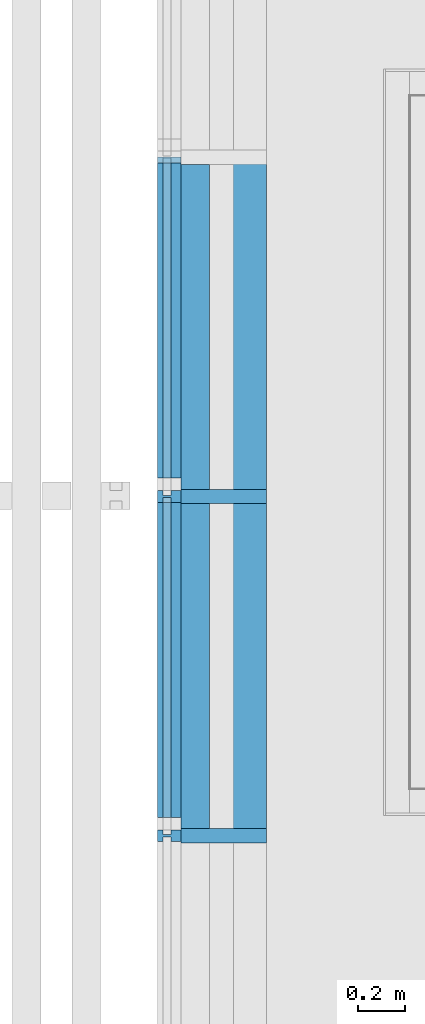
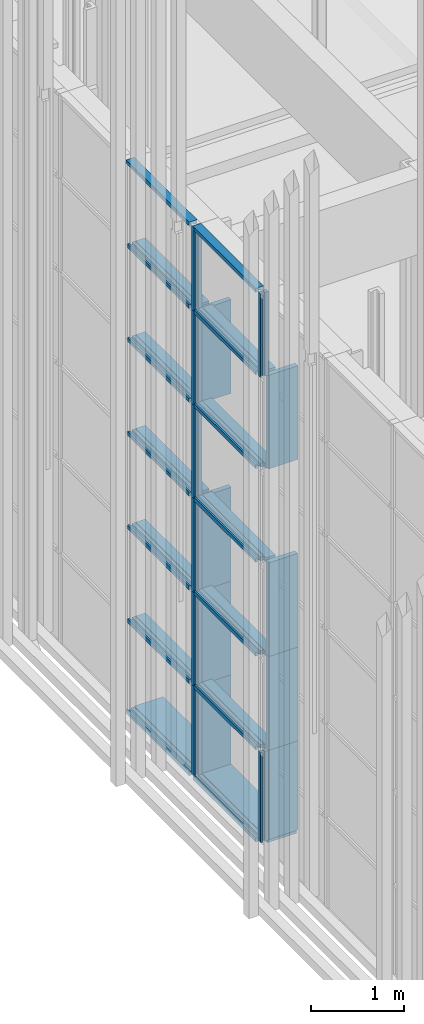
# One storey, part 11 of 260: 42 members, 2 elements without a shape of their own.
"""IFC2X3 building model written with IfcOpenShell, lengths in millimetres."""

from ifc_helpers import new_model, entity, si_unit, converted_unit, derived_unit, money_unit, direction, frame, origin_with_axes, place, context, subcontext, project, spatial, faceted_brep, source, transform, mapped, material, type_object, element, aggregate, save


model = new_model("IFC2X3")

# Units and contexts
model_context = context("Model", 3, precision=0.01, world=origin_with_axes(), true_north=direction((0.0, 1.0)))
body_context = subcontext(model_context, "Body", "Model", "MODEL_VIEW")
ifc_project = project(units=[si_unit("LENGTHUNIT", "METRE", prefix="MILLI"), si_unit("AREAUNIT", "SQUARE_METRE"), si_unit("VOLUMEUNIT", "CUBIC_METRE"), converted_unit("PLANEANGLEUNIT", "DEGREE", entity("IfcPlaneAngleMeasure", 0.0174532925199), si_unit("PLANEANGLEUNIT", "RADIAN"), dimensions=[0, 0, 0, 0, 0, 0, 0]), money_unit("EUR"), converted_unit("TIMEUNIT", "Year", entity("IfcTimeMeasure", 31556926.0), si_unit("TIMEUNIT", "SECOND"), dimensions=[0, 0, 1, 0, 0, 0, 0]), si_unit("MASSUNIT", "GRAM", prefix="KILO"), si_unit("THERMODYNAMICTEMPERATUREUNIT", "DEGREE_CELSIUS"), si_unit("LUMINOUSINTENSITYUNIT", "LUMEN"), si_unit("ENERGYUNIT", "JOULE", prefix="MEGA"), derived_unit("THERMALCONDUCTANCEUNIT", [(si_unit("POWERUNIT", "WATT"), 1), (si_unit("LENGTHUNIT", "METRE"), -1), (si_unit("THERMODYNAMICTEMPERATUREUNIT", "KELVIN"), -1)]), derived_unit("SPECIFICHEATCAPACITYUNIT", [(si_unit("ENERGYUNIT", "JOULE"), 1), (si_unit("MASSUNIT", "GRAM", prefix="KILO"), -1), (si_unit("THERMODYNAMICTEMPERATUREUNIT", "KELVIN"), -1)]), derived_unit("MASSDENSITYUNIT", [(si_unit("MASSUNIT", "GRAM", prefix="KILO"), 1), (si_unit("VOLUMEUNIT", "CUBIC_METRE"), -1)])], contexts=[model_context])

# Site, building, storey
site_placement = place(None, origin_with_axes())
site = spatial("IfcSite", under=ifc_project, at=site_placement, Name="Kolde pst 67a", CompositionType="ELEMENT")
building_placement = place(site_placement, origin_with_axes())
building = spatial("IfcBuilding", under=site, at=building_placement, Name="Riigigümnaasium", CompositionType="ELEMENT")
storey_placement = place(building_placement, origin_with_axes())
storey = spatial("IfcBuildingStorey", under=building, at=storey_placement, Name="1. korrus", CompositionType="ELEMENT", Elevation=0.0)

# Curtain wall, members
curtain_wall_type = type_object("IfcCurtainWallType", Name="Curtain Wall Type", PredefinedType="NOTDEFINED")
curtain_wall_1_placement = place(storey_placement, frame((47829.9854655, 8727.77020058, -0.000749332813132), z_axis=(0.0, 0.0, 1.0), x_axis=(1.0, 0.0, 0.0)))
curtain_wall_1 = element("IfcCurtainWall", 1, at=curtain_wall_1_placement, inside=storey, type_object=curtain_wall_type, Name="KLAASFASSAAD")
ifc_material_1 = material(Name="_METALL - alumiinium")
member_type_1 = type_object("IfcMemberType", Name="Mullion Frame 50 x 100", PredefinedType="MEMBER")
shared_shape_1 = source(origin_with_axes(), body_context, "Body", "Brep", [
    faceted_brep([(5.0, -16.5, 1230.00046362), (5.0, 16.5, 1230.00046362), (25.0, 16.5, 1230.00046362), (25.0, 40.0, 1230.00046362), (-25.0, 40.0, 1230.00046362), (-25.0, 16.5, 1230.00046362), (-5.0, 16.5, 1230.00046362), (-5.0, -16.5, 1230.00046362), (-25.0, -16.5, 1230.00046362), (-25.0, -60.0, 1230.00046362), (25.0, -60.0, 1230.00046362), (25.0, -16.5, 1230.00046362), (5.0, -16.5, 50.0), (5.0, 16.5, 50.0), (25.0, 16.5, 50.0), (25.0, 40.0, 50.0), (-25.0, 40.0, 50.0), (-25.0, 16.5, 50.0), (-5.0, 16.5, 50.0), (-5.0, -16.5, 50.0), (-25.0, -16.5, 50.0), (-25.0, -60.0, 50.0), (25.0, -60.0, 50.0), (25.0, -16.5, 50.0)], [[[0, 1, 2, 3, 4, 5, 6, 7, 8, 9, 10, 11]], [[0, 12, 13, 1]], [[1, 13, 14, 2]], [[14, 15, 3, 2]], [[4, 3, 15, 16]], [[17, 5, 4, 16]], [[5, 17, 18, 6]], [[7, 6, 18, 19]], [[8, 7, 19, 20]], [[8, 20, 21, 9]], [[10, 9, 21, 22]], [[11, 10, 22, 23]], [[11, 23, 12, 0]], [[13, 12, 23, 22, 21, 20, 19, 18, 17, 16, 15, 14]]]),
])
member_1_placement = place(curtain_wall_1_placement, frame((-4.75753836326e-06, 5218.79108249, 0.0), z_axis=(0.0, 5.5564899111e-09, 1.0), x_axis=(9.11613907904e-10, -1.0, 5.5564899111e-09)))
member_1 = element("IfcMember", 2, at=member_1_placement, type_object=member_type_1, material=ifc_material_1, Name="RF RAAM VERT-974", ObjectType="MEMBER", context=body_context, shape_type="MappedRepresentation", body=[
    mapped(shared_shape_1, transform((0.0, 0.0, 0.0), x_axis=(-1.0, 0.0, 5.5564899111e-09), y_axis=(0.0, -1.0, 0.0), z_axis=(5.5564899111e-09, 0.0, 1.0))),
])
member_2_placement = place(curtain_wall_1_placement, frame((-3.45392692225e-06, 3788.79107025, 0.0), z_axis=(0.0, -1.81860125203e-09, 1.0), x_axis=(9.11613907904e-10, -1.0, -1.81860125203e-09)))
member_2 = element("IfcMember", 3, at=member_2_placement, type_object=member_type_1, material=ifc_material_1, Name="RF RAAM VERT-979", ObjectType="MEMBER", context=body_context, shape_type="MappedRepresentation", body=[
    mapped(shared_shape_1, transform((0.0, 0.0, 0.0), x_axis=(-1.0, 0.0, -1.81860125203e-09), y_axis=(0.0, -1.0, 0.0), z_axis=(-1.81860125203e-09, 0.0, 1.0))),
])
shared_shape_2 = source(origin_with_axes(), body_context, "Body", "Brep", [
    faceted_brep([(5.0, -16.5, 1230.0), (5.0, 16.5, 1230.0), (25.0, 16.5, 1230.0), (25.0, 40.0, 1230.0), (-25.0, 40.0, 1230.0), (-25.0, 16.5, 1230.0), (-5.0, 16.5, 1230.0), (-5.0, -16.5, 1230.0), (-25.0, -16.5, 1230.0), (-25.0, -60.0, 1230.0), (25.0, -60.0, 1230.0), (25.0, -16.5, 1230.0), (5.0, -16.5, 0.0), (5.0, 16.5, 0.0), (25.0, 16.5, 0.0), (25.0, 40.0, 0.0), (-25.0, 40.0, 0.0), (-25.0, 16.5, 0.0), (-5.0, 16.5, 0.0), (-5.0, -16.5, 0.0), (-25.0, -16.5, 0.0), (-25.0, -60.0, 0.0), (25.0, -60.0, 0.0), (25.0, -16.5, 0.0)], [[[0, 1, 2, 3, 4, 5, 6, 7, 8, 9, 10, 11]], [[0, 12, 13, 1]], [[1, 13, 14, 2]], [[14, 15, 3, 2]], [[3, 15, 16, 4]], [[17, 5, 4, 16]], [[5, 17, 18, 6]], [[7, 6, 18, 19]], [[8, 7, 19, 20]], [[8, 20, 21, 9]], [[9, 21, 22, 10]], [[11, 10, 22, 23]], [[11, 23, 12, 0]], [[13, 12, 23, 22, 21, 20, 19, 18, 17, 16, 15, 14]]]),
])
member_3_placement = place(curtain_wall_1_placement, frame((-4.75753836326e-06, 5218.79108932, 4920.00074933), z_axis=(0.0, -1.73241294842e-08, 1.0), x_axis=(9.11613907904e-10, -1.0, -1.73241294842e-08)))
member_3 = element("IfcMember", 4, at=member_3_placement, type_object=member_type_1, material=ifc_material_1, Name="RF RAAM VERT-871", ObjectType="MEMBER", context=body_context, shape_type="MappedRepresentation", body=[
    mapped(shared_shape_2, transform((0.0, 0.0, 0.0), x_axis=(-1.0, 0.0, -1.73241294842e-08), y_axis=(0.0, -1.0, 0.0), z_axis=(-1.73241294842e-08, 0.0, 1.0))),
])
member_4_placement = place(curtain_wall_1_placement, frame((-4.75753836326e-06, 5218.79108932, 1230.00074933), z_axis=(0.0, 0.0, 1.0), x_axis=(9.11613907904e-10, -1.0, 0.0)))
member_4 = element("IfcMember", 5, at=member_4_placement, type_object=member_type_1, material=ifc_material_1, Name="RF RAAM VERT-970", ObjectType="MEMBER", context=body_context, shape_type="MappedRepresentation", body=[
    mapped(shared_shape_2, transform((0.0, 0.0, 0.0), x_axis=(-1.0, 0.0, 0.0), y_axis=(0.0, -1.0, 0.0), z_axis=(0.0, 0.0, 1.0))),
])
member_5_placement = place(curtain_wall_1_placement, frame((-4.75753836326e-06, 5218.79108932, 2460.00074933), z_axis=(0.0, 0.0, 1.0), x_axis=(9.11613907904e-10, -1.0, 0.0)))
member_5 = element("IfcMember", 6, at=member_5_placement, type_object=member_type_1, material=ifc_material_1, Name="RF RAAM VERT-971", ObjectType="MEMBER", context=body_context, shape_type="MappedRepresentation", body=[
    mapped(shared_shape_2, transform((0.0, 0.0, 0.0), x_axis=(-1.0, 0.0, 0.0), y_axis=(0.0, -1.0, 0.0), z_axis=(0.0, 0.0, 1.0))),
])
member_6_placement = place(curtain_wall_1_placement, frame((-4.75753836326e-06, 5218.79108932, 3690.00074933), z_axis=(0.0, 0.0, 1.0), x_axis=(9.11613907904e-10, -1.0, 0.0)))
member_6 = element("IfcMember", 7, at=member_6_placement, type_object=member_type_1, material=ifc_material_1, Name="RF RAAM VERT-972", ObjectType="MEMBER", context=body_context, shape_type="MappedRepresentation", body=[
    mapped(shared_shape_2, transform((0.0, 0.0, 0.0), x_axis=(-1.0, 0.0, 0.0), y_axis=(0.0, -1.0, 0.0), z_axis=(0.0, 0.0, 1.0))),
])
member_type_2 = type_object("IfcMemberType", Name="Transom Frame 50 x 100", PredefinedType="MEMBER")
shared_shape_3 = source(origin_with_axes(), body_context, "Body", "Brep", [
    faceted_brep([(5.0, -16.5, 1327.75198335), (5.0, 16.5, 1327.75198335), (25.0, 16.5, 1327.75198335), (25.0, 40.0, 1327.75198335), (-25.0, 40.0, 1327.75198335), (-25.0, 16.5, 1327.75198335), (-5.0, 16.5, 1327.75198335), (-5.0, -16.5, 1327.75198335), (-25.0, -16.5, 1327.75198335), (-25.0, -60.0, 1327.75198335), (25.0, -60.0, 1327.75198335), (25.0, -16.5, 1327.75198335), (5.0, -16.5, 0.0), (5.0, 16.5, 0.0), (25.0, 16.5, 0.0), (25.0, 40.0, 0.0), (-25.0, 40.0, 0.0), (-25.0, 16.5, 0.0), (-5.0, 16.5, 0.0), (-5.0, -16.5, 0.0), (-25.0, -16.5, 0.0), (-25.0, -60.0, 0.0), (25.0, -60.0, 0.0), (25.0, -16.5, 0.0)], [[[0, 1, 2, 3, 4, 5, 6, 7, 8, 9, 10, 11]], [[0, 12, 13, 1]], [[1, 13, 14, 2]], [[14, 15, 3, 2]], [[3, 15, 16, 4]], [[17, 5, 4, 16]], [[5, 17, 18, 6]], [[7, 6, 18, 19]], [[8, 7, 19, 20]], [[8, 20, 21, 9]], [[9, 21, 22, 10]], [[11, 10, 22, 23]], [[11, 23, 12, 0]], [[13, 12, 23, 22, 21, 20, 19, 18, 17, 16, 15, 14]]]),
])
member_7_placement = place(curtain_wall_1_placement, frame((-3.52434881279e-06, 3866.03908467, 4920.00074933), z_axis=(-9.11615393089e-10, 1.0, 0.0), x_axis=(0.0, 0.0, 1.0)))
member_7 = element("IfcMember", 8, at=member_7_placement, type_object=member_type_2, material=ifc_material_1, Name="RF RAAM HOR-829", ObjectType="MEMBER", context=body_context, shape_type="MappedRepresentation", body=[
    mapped(shared_shape_3, transform((0.0, 0.0, 0.0), x_axis=(-1.0, 0.0, 0.0), y_axis=(0.0, -1.0, 9.11615270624e-10), z_axis=(0.0, 9.11615270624e-10, 1.0))),
])
member_8_placement = place(curtain_wall_1_placement, frame((-3.52434881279e-06, 3866.03908467, 6150.00074933), z_axis=(-9.11615407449e-10, 1.0, 0.0), x_axis=(0.0, 0.0, 1.0)))
member_8 = element("IfcMember", 9, at=member_8_placement, type_object=member_type_2, material=ifc_material_1, Name="RF RAAM HOR-830", ObjectType="MEMBER", context=body_context, shape_type="MappedRepresentation", body=[
    mapped(shared_shape_3, transform((0.0, 0.0, 0.0), x_axis=(-1.0, 0.0, 0.0), y_axis=(0.0, -1.0, 9.11615284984e-10), z_axis=(0.0, 9.11615284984e-10, 1.0))),
])
member_9_placement = place(curtain_wall_1_placement, frame((-4.82796025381e-06, 5296.03908467, 4920.00074933), z_axis=(-9.11615393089e-10, 1.0, 0.0), x_axis=(0.0, 0.0, 1.0)))
member_9 = element("IfcMember", 10, at=member_9_placement, type_object=member_type_2, material=ifc_material_1, Name="RF RAAM HOR-831", ObjectType="MEMBER", context=body_context, shape_type="MappedRepresentation", body=[
    mapped(shared_shape_3, transform((0.0, 0.0, 0.0), x_axis=(-1.0, 0.0, 0.0), y_axis=(0.0, -1.0, 9.11615270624e-10), z_axis=(0.0, 9.11615270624e-10, 1.0))),
])
member_10_placement = place(curtain_wall_1_placement, frame((-4.82796025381e-06, 5296.03908467, 6150.00074933), z_axis=(-9.11615407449e-10, 1.0, 0.0), x_axis=(0.0, 0.0, 1.0)))
member_10 = element("IfcMember", 11, at=member_10_placement, type_object=member_type_2, material=ifc_material_1, Name="RF RAAM HOR-832", ObjectType="MEMBER", context=body_context, shape_type="MappedRepresentation", body=[
    mapped(shared_shape_3, transform((0.0, 0.0, 0.0), x_axis=(-1.0, 0.0, 0.0), y_axis=(0.0, -1.0, 9.11615284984e-10), z_axis=(0.0, 9.11615284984e-10, 1.0))),
])
member_11_placement = place(curtain_wall_1_placement, frame((-4.82796025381e-06, 5296.03908467, 1230.00074933), z_axis=(-9.11615393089e-10, 1.0, 0.0), x_axis=(0.0, 0.0, 1.0)))
member_11 = element("IfcMember", 12, at=member_11_placement, type_object=member_type_2, material=ifc_material_1, Name="RF RAAM HOR-928", ObjectType="MEMBER", context=body_context, shape_type="MappedRepresentation", body=[
    mapped(shared_shape_3, transform((0.0, 0.0, 0.0), x_axis=(-1.0, 0.0, 0.0), y_axis=(0.0, -1.0, 9.11615270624e-10), z_axis=(0.0, 9.11615270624e-10, 1.0))),
])
member_12_placement = place(curtain_wall_1_placement, frame((-4.82796025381e-06, 5296.03908467, 2460.00074933), z_axis=(-9.11615393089e-10, 1.0, 0.0), x_axis=(0.0, 0.0, 1.0)))
member_12 = element("IfcMember", 13, at=member_12_placement, type_object=member_type_2, material=ifc_material_1, Name="RF RAAM HOR-929", ObjectType="MEMBER", context=body_context, shape_type="MappedRepresentation", body=[
    mapped(shared_shape_3, transform((0.0, 0.0, 0.0), x_axis=(-1.0, 0.0, 0.0), y_axis=(0.0, -1.0, 9.11615270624e-10), z_axis=(0.0, 9.11615270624e-10, 1.0))),
])
member_13_placement = place(curtain_wall_1_placement, frame((-4.82796025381e-06, 5296.03908467, 3690.00074933), z_axis=(-9.11615393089e-10, 1.0, 0.0), x_axis=(0.0, 0.0, 1.0)))
member_13 = element("IfcMember", 14, at=member_13_placement, type_object=member_type_2, material=ifc_material_1, Name="RF RAAM HOR-930", ObjectType="MEMBER", context=body_context, shape_type="MappedRepresentation", body=[
    mapped(shared_shape_3, transform((0.0, 0.0, 0.0), x_axis=(-1.0, 0.0, 0.0), y_axis=(0.0, -1.0, 9.11615270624e-10), z_axis=(0.0, 9.11615270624e-10, 1.0))),
])
member_14_placement = place(curtain_wall_1_placement, frame((-3.52434881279e-06, 3866.03908467, 1230.00074933), z_axis=(-9.11615393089e-10, 1.0, 0.0), x_axis=(0.0, 0.0, 1.0)))
member_14 = element("IfcMember", 15, at=member_14_placement, type_object=member_type_2, material=ifc_material_1, Name="RF RAAM HOR-931", ObjectType="MEMBER", context=body_context, shape_type="MappedRepresentation", body=[
    mapped(shared_shape_3, transform((0.0, 0.0, 0.0), x_axis=(-1.0, 0.0, 0.0), y_axis=(0.0, -1.0, 9.11615270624e-10), z_axis=(0.0, 9.11615270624e-10, 1.0))),
])
member_15_placement = place(curtain_wall_1_placement, frame((-3.52434881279e-06, 3866.03908467, 2460.00074933), z_axis=(-9.11615393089e-10, 1.0, 0.0), x_axis=(0.0, 0.0, 1.0)))
member_15 = element("IfcMember", 16, at=member_15_placement, type_object=member_type_2, material=ifc_material_1, Name="RF RAAM HOR-932", ObjectType="MEMBER", context=body_context, shape_type="MappedRepresentation", body=[
    mapped(shared_shape_3, transform((0.0, 0.0, 0.0), x_axis=(-1.0, 0.0, 0.0), y_axis=(0.0, -1.0, 9.11615270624e-10), z_axis=(0.0, 9.11615270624e-10, 1.0))),
])
member_16_placement = place(curtain_wall_1_placement, frame((-3.52434881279e-06, 3866.03908467, 3690.00074933), z_axis=(-9.11615393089e-10, 1.0, 0.0), x_axis=(0.0, 0.0, 1.0)))
member_16 = element("IfcMember", 17, at=member_16_placement, type_object=member_type_2, material=ifc_material_1, Name="RF RAAM HOR-933", ObjectType="MEMBER", context=body_context, shape_type="MappedRepresentation", body=[
    mapped(shared_shape_3, transform((0.0, 0.0, 0.0), x_axis=(-1.0, 0.0, 0.0), y_axis=(0.0, -1.0, 9.11615270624e-10), z_axis=(0.0, 9.11615270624e-10, 1.0))),
])
member_type_3 = type_object("IfcMemberType", Name="Boundary Frame 50 x 100", PredefinedType="MEMBER")
shared_shape_4 = source(origin_with_axes(), body_context, "Body", "Brep", [
    faceted_brep([(-30.0, -16.5, 1352.75197298), (-50.0, -16.5, 1352.75197298), (-50.0, -60.0, 1352.75197298), (0.0, -60.0, 1352.75197298), (0.0, 40.0, 1352.75197298), (-50.0, 40.0, 1352.75197298), (-50.0, 16.5, 1352.75197298), (-30.0, 16.5, 1352.75197298), (-30.0, -16.5, 0.0), (-50.0, -16.5, 0.0), (-50.0, -60.0, 0.0), (0.0, -60.0, 0.0), (0.0, 40.0, 0.0), (-50.0, 40.0, 0.0), (-50.0, 16.5, 0.0), (-30.0, 16.5, 0.0)], [[[0, 1, 2, 3, 4, 5, 6, 7]], [[0, 8, 9, 1]], [[9, 10, 2, 1]], [[10, 11, 3, 2]], [[11, 12, 4, 3]], [[12, 13, 5, 4]], [[6, 5, 13, 14]], [[14, 15, 7, 6]], [[7, 15, 8, 0]], [[8, 15, 14, 13, 12, 11, 10, 9]]]),
])
member_17_placement = place(curtain_wall_1_placement, frame((-4.82796025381e-06, 5296.03908467, 0.0), z_axis=(-9.11615399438e-10, 1.0, 0.0), x_axis=(0.0, 0.0, 1.0)))
member_17 = element("IfcMember", 18, at=member_17_placement, type_object=member_type_3, material=ifc_material_1, Name="RF RAAM SERV-558", ObjectType="MEMBER", context=body_context, shape_type="MappedRepresentation", body=[
    mapped(shared_shape_4, transform((0.0, 0.0, 0.0), x_axis=(-1.0, 0.0, 0.0), y_axis=(0.0, -1.0, 9.11615276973e-10), z_axis=(0.0, 9.11615276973e-10, 1.0))),
])
member_18_placement = place(curtain_wall_1_placement, frame((-3.52434881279e-06, 3866.03908467, 0.0), z_axis=(-9.11615397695e-10, 1.0, 0.0), x_axis=(0.0, 0.0, 1.0)))
member_18 = element("IfcMember", 19, at=member_18_placement, type_object=member_type_3, material=ifc_material_1, Name="RF RAAM SERV-557", ObjectType="MEMBER", context=body_context, shape_type="MappedRepresentation", body=[
    mapped(shared_shape_4, transform((0.0, 0.0, 0.0), x_axis=(-1.0, 0.0, 0.0), y_axis=(0.0, -1.0, 9.1161527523e-10), z_axis=(0.0, 9.1161527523e-10, 1.0))),
])
member_19_placement = place(curtain_wall_1_placement, frame((-4.75753836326e-06, 5218.79108236, 7259.99994321), z_axis=(9.11615397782e-10, -1.0, 0.0), x_axis=(0.0, 0.0, -1.0)))
member_19 = element("IfcMember", 20, at=member_19_placement, type_object=member_type_3, material=ifc_material_1, Name="RF RAAM SERV-578", ObjectType="MEMBER", context=body_context, shape_type="MappedRepresentation", body=[
    mapped(shared_shape_4, transform((0.0, 0.0, 0.0), x_axis=(-1.0, 0.0, 0.0), y_axis=(0.0, -1.0, -9.11615397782e-10), z_axis=(0.0, -9.11615397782e-10, 1.0))),
])
member_20_placement = place(curtain_wall_1_placement, frame((-6.06114980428e-06, 6648.7910798, 7259.99994321), z_axis=(9.11615399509e-10, -1.0, 0.0), x_axis=(0.0, 0.0, -1.0)))
member_20 = element("IfcMember", 21, at=member_20_placement, type_object=member_type_3, material=ifc_material_1, Name="RF RAAM SERV-577", ObjectType="MEMBER", context=body_context, shape_type="MappedRepresentation", body=[
    mapped(shared_shape_4, transform((0.0, 0.0, 0.0), x_axis=(-1.0, 0.0, 0.0), y_axis=(0.0, -1.0, -9.11615399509e-10), z_axis=(0.0, -9.11615399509e-10, 1.0))),
])
shared_shape_5 = source(origin_with_axes(), body_context, "Body", "Brep", [
    faceted_brep([(5.0, -16.5, 1099.99900713), (5.0, 16.5, 1099.99900713), (25.0, 16.5, 1099.99900713), (25.0, 40.0, 1099.99900713), (-25.0, 40.0, 1099.99900713), (-25.0, 16.5, 1099.99900713), (-5.0, 16.5, 1099.99900713), (-5.0, -16.5, 1099.99900713), (-25.0, -16.5, 1099.99900713), (-25.0, -60.0, 1099.99900713), (25.0, -60.0, 1099.99900713), (25.0, -16.5, 1099.99900713), (5.0, -16.5, -4.55870452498e-07), (5.0, 16.5, -4.55870452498e-07), (25.0, 16.5, -4.55870452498e-07), (25.0, 40.0, -4.55870452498e-07), (-25.0, 40.0, -4.55870452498e-07), (-25.0, 16.5, -4.55870452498e-07), (-5.0, 16.5, -4.55870452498e-07), (-5.0, -16.5, -4.55870452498e-07), (-25.0, -16.5, -4.55870452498e-07), (-25.0, -60.0, -4.55870452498e-07), (25.0, -60.0, -4.55870452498e-07), (25.0, -16.5, -4.55870452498e-07)], [[[0, 1, 2, 3, 4, 5, 6, 7, 8, 9, 10, 11]], [[0, 12, 13, 1]], [[1, 13, 14, 2]], [[14, 15, 3, 2]], [[3, 15, 16, 4]], [[17, 5, 4, 16]], [[5, 17, 18, 6]], [[7, 6, 18, 19]], [[8, 7, 19, 20]], [[8, 20, 21, 9]], [[9, 21, 22, 10]], [[11, 10, 22, 23]], [[11, 23, 12, 0]], [[13, 12, 23, 22, 21, 20, 19, 18, 17, 16, 15, 14]]]),
])
member_21_placement = place(curtain_wall_1_placement, frame((-3.45392692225e-06, 3788.79106801, 6150.00074933), z_axis=(0.0, 1.99721447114e-09, 1.0), x_axis=(9.11613907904e-10, -1.0, 1.99721447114e-09)))
member_21 = element("IfcMember", 22, at=member_21_placement, type_object=member_type_1, material=ifc_material_1, Name="RF RAAM VERT-046", ObjectType="MEMBER", context=body_context, shape_type="MappedRepresentation", body=[
    mapped(shared_shape_5, transform((0.0, 0.0, 0.0), x_axis=(-1.0, 0.0, 1.99721447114e-09), y_axis=(0.0, -1.0, 0.0), z_axis=(1.99721447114e-09, 0.0, 1.0))),
])
member_22_placement = place(curtain_wall_1_placement, frame((-4.75753836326e-06, 5218.79106801, 6150.00074933), z_axis=(0.0, 1.29233905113e-08, 1.0), x_axis=(9.11613907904e-10, -1.0, 1.29233905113e-08)))
member_22 = element("IfcMember", 23, at=member_22_placement, type_object=member_type_1, material=ifc_material_1, Name="RF RAAM VERT-047", ObjectType="MEMBER", context=body_context, shape_type="MappedRepresentation", body=[
    mapped(shared_shape_5, transform((0.0, 0.0, 0.0), x_axis=(-1.0, 0.0, 1.29233905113e-08), y_axis=(0.0, -1.0, 0.0), z_axis=(1.29233905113e-08, 0.0, 1.0))),
])
aggregate(curtain_wall_1, [member_3, member_7, member_8, member_9, member_10, member_11, member_12, member_13, member_17, member_4, member_14, member_15, member_5, member_16, member_6, member_1, member_18, member_2, member_21, member_22, member_19, member_20])

curtain_wall_2_placement = place(storey_placement, frame((47889.9854796, 7778.28071079, -0.000681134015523), z_axis=(0.0, 0.0, 1.0), x_axis=(1.0, 0.0, 0.0)))
curtain_wall_2 = element("IfcCurtainWall", 24, at=curtain_wall_2_placement, inside=storey, type_object=curtain_wall_type, Name="Klaasfassaadi puitkarkass")
ifc_material_2 = material(Name="_KANDETARIND - liimpuit vastavalt EK osale")
member_type_4 = type_object("IfcMemberType", Name="Transom Frame 60 x 120", PredefinedType="MEMBER")
shared_shape_6 = source(origin_with_axes(), body_context, "Body", "Brep", [
    faceted_brep([(-30.0, 0.0, 30.0), (-30.0, -120.0, 30.0), (-30.0, -120.0, 1400.0), (-30.0, 0.0, 1400.0), (30.0, 0.0, 30.0), (30.0, -120.0, 30.0), (30.0, -120.0, 1400.0), (30.0, 0.0, 1400.0)], [[[0, 1, 2, 3]], [[1, 0, 4, 5]], [[1, 5, 6, 2]], [[2, 6, 7, 3]], [[4, 0, 3, 7]], [[5, 4, 7, 6]]]),
])
member_23_placement = place(curtain_wall_2_placement, frame((-5.09230346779e-06, 4738.28063511, 1230.00068113), z_axis=(-1.07471327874e-09, 1.0, 0.0), x_axis=(0.0, 0.0, 1.0)))
member_23 = element("IfcMember", 25, at=member_23_placement, type_object=member_type_4, material=ifc_material_2, Name="RF RAAM HOR-249", ObjectType="MEMBER", context=body_context, shape_type="MappedRepresentation", body=[
    mapped(shared_shape_6, transform((0.0, 0.0, 0.0), x_axis=(-1.0, 0.0, 0.0), y_axis=(0.0, -1.0, 1.07471315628e-09), z_axis=(0.0, 1.07471315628e-09, 1.0))),
])
member_24_placement = place(curtain_wall_2_placement, frame((-6.62914345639e-06, 6168.28063511, 1230.00068113), z_axis=(-1.07471327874e-09, 1.0, 0.0), x_axis=(0.0, 0.0, 1.0)))
member_24 = element("IfcMember", 26, at=member_24_placement, type_object=member_type_4, material=ifc_material_2, Name="RF RAAM HOR-249", ObjectType="MEMBER", context=body_context, shape_type="MappedRepresentation", body=[
    mapped(shared_shape_6, transform((0.0, 0.0, 0.0), x_axis=(-1.0, 0.0, 0.0), y_axis=(0.0, -1.0, 1.07471315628e-09), z_axis=(0.0, 1.07471315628e-09, 1.0))),
])
member_25_placement = place(curtain_wall_2_placement, frame((-5.09230346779e-06, 4738.28063511, 2460.00068113), z_axis=(-1.07471327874e-09, 1.0, 0.0), x_axis=(0.0, 0.0, 1.0)))
member_25 = element("IfcMember", 27, at=member_25_placement, type_object=member_type_4, material=ifc_material_2, Name="RF RAAM HOR-249", ObjectType="MEMBER", context=body_context, shape_type="MappedRepresentation", body=[
    mapped(shared_shape_6, transform((0.0, 0.0, 0.0), x_axis=(-1.0, 0.0, 0.0), y_axis=(0.0, -1.0, 1.07471315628e-09), z_axis=(0.0, 1.07471315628e-09, 1.0))),
])
member_26_placement = place(curtain_wall_2_placement, frame((-6.62914345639e-06, 6168.28063511, 2460.00068113), z_axis=(-1.07471327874e-09, 1.0, 0.0), x_axis=(0.0, 0.0, 1.0)))
member_26 = element("IfcMember", 28, at=member_26_placement, type_object=member_type_4, material=ifc_material_2, Name="RF RAAM HOR-249", ObjectType="MEMBER", context=body_context, shape_type="MappedRepresentation", body=[
    mapped(shared_shape_6, transform((0.0, 0.0, 0.0), x_axis=(-1.0, 0.0, 0.0), y_axis=(0.0, -1.0, 1.07471315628e-09), z_axis=(0.0, 1.07471315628e-09, 1.0))),
])
member_27_placement = place(curtain_wall_2_placement, frame((-5.09230346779e-06, 4738.28063511, 3690.00068113), z_axis=(-1.07471327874e-09, 1.0, 0.0), x_axis=(0.0, 0.0, 1.0)))
member_27 = element("IfcMember", 29, at=member_27_placement, type_object=member_type_4, material=ifc_material_2, Name="RF RAAM HOR-249", ObjectType="MEMBER", context=body_context, shape_type="MappedRepresentation", body=[
    mapped(shared_shape_6, transform((0.0, 0.0, 0.0), x_axis=(-1.0, 0.0, 0.0), y_axis=(0.0, -1.0, 1.07471315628e-09), z_axis=(0.0, 1.07471315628e-09, 1.0))),
])
member_28_placement = place(curtain_wall_2_placement, frame((-6.62914345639e-06, 6168.28063511, 3690.00068113), z_axis=(-1.07471327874e-09, 1.0, 0.0), x_axis=(0.0, 0.0, 1.0)))
member_28 = element("IfcMember", 30, at=member_28_placement, type_object=member_type_4, material=ifc_material_2, Name="RF RAAM HOR-249", ObjectType="MEMBER", context=body_context, shape_type="MappedRepresentation", body=[
    mapped(shared_shape_6, transform((0.0, 0.0, 0.0), x_axis=(-1.0, 0.0, 0.0), y_axis=(0.0, -1.0, 1.07471315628e-09), z_axis=(0.0, 1.07471315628e-09, 1.0))),
])
member_29_placement = place(curtain_wall_2_placement, frame((-5.09230346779e-06, 4738.28063511, 4920.00068113), z_axis=(-1.07471327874e-09, 1.0, 0.0), x_axis=(0.0, 0.0, 1.0)))
member_29 = element("IfcMember", 31, at=member_29_placement, type_object=member_type_4, material=ifc_material_2, Name="RF RAAM HOR-249", ObjectType="MEMBER", context=body_context, shape_type="MappedRepresentation", body=[
    mapped(shared_shape_6, transform((0.0, 0.0, 0.0), x_axis=(-1.0, 0.0, 0.0), y_axis=(0.0, -1.0, 1.07471315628e-09), z_axis=(0.0, 1.07471315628e-09, 1.0))),
])
member_30_placement = place(curtain_wall_2_placement, frame((-6.62914345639e-06, 6168.28063511, 4920.00068113), z_axis=(-1.07471327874e-09, 1.0, 0.0), x_axis=(0.0, 0.0, 1.0)))
member_30 = element("IfcMember", 32, at=member_30_placement, type_object=member_type_4, material=ifc_material_2, Name="RF RAAM HOR-249", ObjectType="MEMBER", context=body_context, shape_type="MappedRepresentation", body=[
    mapped(shared_shape_6, transform((0.0, 0.0, 0.0), x_axis=(-1.0, 0.0, 0.0), y_axis=(0.0, -1.0, 1.07471315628e-09), z_axis=(0.0, 1.07471315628e-09, 1.0))),
])
member_31_placement = place(curtain_wall_2_placement, frame((-5.09230346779e-06, 4738.28063511, 6150.00068113), z_axis=(-1.07471327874e-09, 1.0, 0.0), x_axis=(0.0, 0.0, 1.0)))
member_31 = element("IfcMember", 33, at=member_31_placement, type_object=member_type_4, material=ifc_material_2, Name="RF RAAM HOR-249", ObjectType="MEMBER", context=body_context, shape_type="MappedRepresentation", body=[
    mapped(shared_shape_6, transform((0.0, 0.0, 0.0), x_axis=(-1.0, 0.0, 0.0), y_axis=(0.0, -1.0, 1.07471315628e-09), z_axis=(0.0, 1.07471315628e-09, 1.0))),
])
member_32_placement = place(curtain_wall_2_placement, frame((-6.62914345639e-06, 6168.28063511, 6150.00068113), z_axis=(-1.07471327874e-09, 1.0, 0.0), x_axis=(0.0, 0.0, 1.0)))
member_32 = element("IfcMember", 34, at=member_32_placement, type_object=member_type_4, material=ifc_material_2, Name="RF RAAM HOR-249", ObjectType="MEMBER", context=body_context, shape_type="MappedRepresentation", body=[
    mapped(shared_shape_6, transform((0.0, 0.0, 0.0), x_axis=(-1.0, 0.0, 0.0), y_axis=(0.0, -1.0, 1.07471315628e-09), z_axis=(0.0, 1.07471315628e-09, 1.0))),
])
member_type_5 = type_object("IfcMemberType", Name="Mullion Frame 60 x 360", PredefinedType="MEMBER")
shared_shape_7 = source(origin_with_axes(), body_context, "Body", "Brep", [
    faceted_brep([(-30.0, 0.0, 60.0), (-30.0, -360.0, 60.0), (-30.0, -360.0, 1230.0002536), (-30.0, 0.0, 1230.0002536), (30.0, 0.0, 60.0), (30.0, -360.0, 60.0), (30.0, -360.0, 1230.0002536), (30.0, 0.0, 1230.0002536)], [[[0, 1, 2, 3]], [[1, 0, 4, 5]], [[1, 5, 6, 2]], [[2, 6, 7, 3]], [[4, 0, 3, 7]], [[5, 4, 7, 6]]]),
])
member_33_placement = place(curtain_wall_2_placement, frame((-5.09230346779e-06, 4738.28063511, 0.0), z_axis=(0.0, 0.0, 1.0), x_axis=(1.07471576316e-09, -1.0, 0.0)))
member_33 = element("IfcMember", 35, at=member_33_placement, type_object=member_type_5, material=ifc_material_2, Name="RF RAAM VERT-457", ObjectType="MEMBER", context=body_context, shape_type="MappedRepresentation", body=[
    mapped(shared_shape_7, transform((0.0, 0.0, 0.0), x_axis=(-1.0, 0.0, 0.0), y_axis=(0.0, -1.0, 0.0), z_axis=(0.0, 0.0, 1.0))),
])
member_34_placement = place(curtain_wall_2_placement, frame((-6.62914345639e-06, 6168.28063511, 0.0), z_axis=(0.0, 0.0, 1.0), x_axis=(1.07471327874e-09, -1.0, 0.0)))
member_34 = element("IfcMember", 36, at=member_34_placement, type_object=member_type_5, material=ifc_material_2, Name="RF RAAM VERT-457", ObjectType="MEMBER", context=body_context, shape_type="MappedRepresentation", body=[
    mapped(shared_shape_7, transform((0.0, 0.0, 0.0), x_axis=(-1.0, 0.0, 0.0), y_axis=(0.0, -1.0, 0.0), z_axis=(0.0, 0.0, 1.0))),
])
shared_shape_8 = source(origin_with_axes(), body_context, "Body", "Brep", [
    faceted_brep([(-30.0, -360.0, 0.0), (-30.0, -360.0, 1230.0), (-30.0, 0.0, 1230.0), (-30.0, 0.0, 0.0), (30.0, -360.0, 0.0), (30.0, -360.0, 1230.0), (30.0, 0.0, 1230.0), (30.0, 0.0, 0.0)], [[[0, 1, 2, 3]], [[4, 5, 1, 0]], [[1, 5, 6, 2]], [[3, 2, 6, 7]], [[0, 3, 7, 4]], [[7, 6, 5, 4]]]),
])
member_35_placement = place(curtain_wall_2_placement, frame((-5.09230346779e-06, 4738.28063511, 1230.00068113), z_axis=(0.0, 0.0, 1.0), x_axis=(1.07471576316e-09, -1.0, 0.0)))
member_35 = element("IfcMember", 37, at=member_35_placement, type_object=member_type_5, material=ifc_material_2, Name="RF RAAM VERT-457", ObjectType="MEMBER", context=body_context, shape_type="MappedRepresentation", body=[
    mapped(shared_shape_8, transform((0.0, 0.0, 0.0), x_axis=(-1.0, 0.0, 0.0), y_axis=(0.0, -1.0, 0.0), z_axis=(0.0, 0.0, 1.0))),
])
member_36_placement = place(curtain_wall_2_placement, frame((-5.09230346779e-06, 4738.28063511, 2460.00068113), z_axis=(0.0, 0.0, 1.0), x_axis=(1.07471576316e-09, -1.0, 0.0)))
member_36 = element("IfcMember", 38, at=member_36_placement, type_object=member_type_5, material=ifc_material_2, Name="RF RAAM VERT-457", ObjectType="MEMBER", context=body_context, shape_type="MappedRepresentation", body=[
    mapped(shared_shape_8, transform((0.0, 0.0, 0.0), x_axis=(-1.0, 0.0, 0.0), y_axis=(0.0, -1.0, 0.0), z_axis=(0.0, 0.0, 1.0))),
])
member_37_placement = place(curtain_wall_2_placement, frame((-5.09230346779e-06, 4738.28063511, 4920.00068113), z_axis=(0.0, 0.0, 1.0), x_axis=(1.07471576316e-09, -1.0, 0.0)))
member_37 = element("IfcMember", 39, at=member_37_placement, type_object=member_type_5, material=ifc_material_2, Name="RF RAAM VERT-457", ObjectType="MEMBER", context=body_context, shape_type="MappedRepresentation", body=[
    mapped(shared_shape_8, transform((0.0, 0.0, 0.0), x_axis=(-1.0, 0.0, 0.0), y_axis=(0.0, -1.0, 0.0), z_axis=(0.0, 0.0, 1.0))),
])
member_38_placement = place(curtain_wall_2_placement, frame((-6.62914345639e-06, 6168.28063511, 1230.00068113), z_axis=(0.0, 0.0, 1.0), x_axis=(1.07471327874e-09, -1.0, 0.0)))
member_38 = element("IfcMember", 40, at=member_38_placement, type_object=member_type_5, material=ifc_material_2, Name="RF RAAM VERT-457", ObjectType="MEMBER", context=body_context, shape_type="MappedRepresentation", body=[
    mapped(shared_shape_8, transform((0.0, 0.0, 0.0), x_axis=(-1.0, 0.0, 0.0), y_axis=(0.0, -1.0, 0.0), z_axis=(0.0, 0.0, 1.0))),
])
member_39_placement = place(curtain_wall_2_placement, frame((-6.62914345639e-06, 6168.28063511, 2460.00068113), z_axis=(0.0, 0.0, 1.0), x_axis=(1.07471327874e-09, -1.0, 0.0)))
member_39 = element("IfcMember", 41, at=member_39_placement, type_object=member_type_5, material=ifc_material_2, Name="RF RAAM VERT-457", ObjectType="MEMBER", context=body_context, shape_type="MappedRepresentation", body=[
    mapped(shared_shape_8, transform((0.0, 0.0, 0.0), x_axis=(-1.0, 0.0, 0.0), y_axis=(0.0, -1.0, 0.0), z_axis=(0.0, 0.0, 1.0))),
])
member_40_placement = place(curtain_wall_2_placement, frame((-6.62914345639e-06, 6168.28063511, 4920.00068113), z_axis=(0.0, 0.0, 1.0), x_axis=(1.07471327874e-09, -1.0, 0.0)))
member_40 = element("IfcMember", 42, at=member_40_placement, type_object=member_type_5, material=ifc_material_2, Name="RF RAAM VERT-457", ObjectType="MEMBER", context=body_context, shape_type="MappedRepresentation", body=[
    mapped(shared_shape_8, transform((0.0, 0.0, 0.0), x_axis=(-1.0, 0.0, 0.0), y_axis=(0.0, -1.0, 0.0), z_axis=(0.0, 0.0, 1.0))),
])
member_type_6 = type_object("IfcMemberType", Name="Boundary Frame 60 x 360", PredefinedType="MEMBER")
shared_shape_9 = source(origin_with_axes(), body_context, "Body", "Brep", [
    faceted_brep([(-60.0, -360.0, 0.0), (-60.0, -360.0, 1430.0), (-60.0, 0.0, 1430.0), (-60.0, 0.0, 0.0), (0.0, -360.0, 0.0), (0.0, -360.0, 1430.0), (0.0, 0.0, 1430.0), (0.0, 0.0, 0.0)], [[[0, 1, 2, 3]], [[4, 5, 1, 0]], [[1, 5, 6, 2]], [[3, 2, 6, 7]], [[0, 3, 7, 4]], [[7, 6, 5, 4]]]),
])
member_41_placement = place(curtain_wall_2_placement, frame((-5.09230346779e-06, 4738.28063511, 0.0), z_axis=(-1.07471327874e-09, 1.0, 0.0), x_axis=(0.0, 0.0, 1.0)))
member_41 = element("IfcMember", 43, at=member_41_placement, type_object=member_type_6, material=ifc_material_2, Name="RF RAAM SERV-884", ObjectType="MEMBER", context=body_context, shape_type="MappedRepresentation", body=[
    mapped(shared_shape_9, transform((0.0, 0.0, 0.0), x_axis=(-1.0, 0.0, 0.0), y_axis=(0.0, -1.0, 1.07471315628e-09), z_axis=(0.0, 1.07471315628e-09, 1.0))),
])
member_42_placement = place(curtain_wall_2_placement, frame((-6.62914345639e-06, 6168.28063511, 0.0), z_axis=(-1.07471327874e-09, 1.0, 0.0), x_axis=(0.0, 0.0, 1.0)))
member_42 = element("IfcMember", 44, at=member_42_placement, type_object=member_type_6, material=ifc_material_2, Name="RF RAAM SERV-885", ObjectType="MEMBER", context=body_context, shape_type="MappedRepresentation", body=[
    mapped(shared_shape_9, transform((0.0, 0.0, 0.0), x_axis=(-1.0, 0.0, 0.0), y_axis=(0.0, -1.0, 1.07471315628e-09), z_axis=(0.0, 1.07471315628e-09, 1.0))),
])
aggregate(curtain_wall_2, [member_33, member_35, member_36, member_37, member_34, member_38, member_39, member_40, member_41, member_42, member_23, member_24, member_25, member_26, member_27, member_28, member_29, member_30, member_31, member_32])

save(model, "model.ifc")
